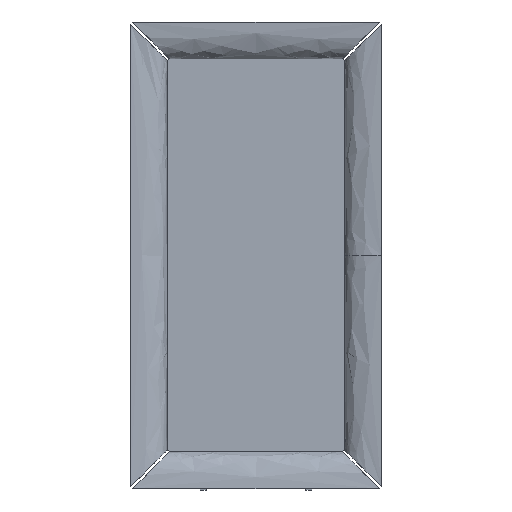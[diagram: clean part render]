
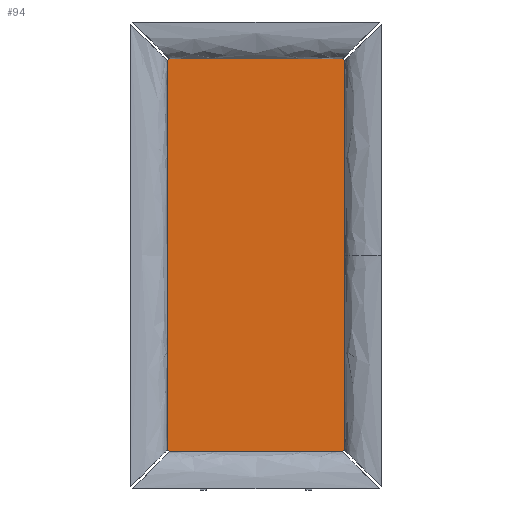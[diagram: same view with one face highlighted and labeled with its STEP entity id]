
A CAD part, top view. The second image highlights one B-rep face of the part: STEP entity #94.
In plain terms, the highlighted planar face has unit normal (0, 0, 1).
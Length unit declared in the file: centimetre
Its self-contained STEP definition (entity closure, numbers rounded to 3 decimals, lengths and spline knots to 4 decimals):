
#94=ADVANCED_FACE($,(#200),#1286,.T.);
#200=FACE_OUTER_BOUND($,#306,.T.);
#306=EDGE_LOOP($,(#424,#425,#426,#427,#428,#429,#430,#431));
#424=ORIENTED_EDGE($,*,*,#894,.T.);
#425=ORIENTED_EDGE($,*,*,#908,.T.);
#426=ORIENTED_EDGE($,*,*,#907,.T.);
#427=ORIENTED_EDGE($,*,*,#906,.T.);
#428=ORIENTED_EDGE($,*,*,#905,.T.);
#429=ORIENTED_EDGE($,*,*,#904,.T.);
#430=ORIENTED_EDGE($,*,*,#903,.T.);
#431=ORIENTED_EDGE($,*,*,#902,.T.);
#894=EDGE_CURVE($,#1133,#1147,#1336,.T.);
#902=EDGE_CURVE($,#1141,#1133,#1344,.T.);
#903=EDGE_CURVE($,#1142,#1141,#1345,.T.);
#904=EDGE_CURVE($,#1143,#1142,#1346,.T.);
#905=EDGE_CURVE($,#1144,#1143,#1347,.T.);
#906=EDGE_CURVE($,#1145,#1144,#1348,.T.);
#907=EDGE_CURVE($,#1146,#1145,#1349,.T.);
#908=EDGE_CURVE($,#1147,#1146,#1350,.T.);
#1133=VERTEX_POINT($,#1827);
#1141=VERTEX_POINT($,#1835);
#1142=VERTEX_POINT($,#1836);
#1143=VERTEX_POINT($,#1837);
#1144=VERTEX_POINT($,#1838);
#1145=VERTEX_POINT($,#1839);
#1146=VERTEX_POINT($,#1840);
#1147=VERTEX_POINT($,#1841);
#1286=PLANE($,#1664);
#1336=B_SPLINE_CURVE_WITH_KNOTS($,1,(#1772,#1773),.UNSPECIFIED.,.F.,.F.,
(2,2),(785.6562,786.8583),.UNSPECIFIED.);
#1344=B_SPLINE_CURVE_WITH_KNOTS($,1,(#1788,#1789),.UNSPECIFIED.,.F.,.F.,
(2,2),(1187.3646,1259.6646),.UNSPECIFIED.);
#1345=B_SPLINE_CURVE_WITH_KNOTS($,1,(#1790,#1791),.UNSPECIFIED.,.F.,.F.,
(2,2),(1186.1625,1187.3646),.UNSPECIFIED.);
#1346=B_SPLINE_CURVE_WITH_KNOTS($,1,(#1792,#1793),.UNSPECIFIED.,.F.,.F.,
(2,2),(1023.8625,1186.1625),.UNSPECIFIED.);
#1347=B_SPLINE_CURVE_WITH_KNOTS($,1,(#1794,#1795),.UNSPECIFIED.,.F.,.F.,
(2,2),(1022.6604,1023.8625),.UNSPECIFIED.);
#1348=B_SPLINE_CURVE_WITH_KNOTS($,1,(#1796,#1797),.UNSPECIFIED.,.F.,.F.,
(2,2),(950.3604,1022.6604),.UNSPECIFIED.);
#1349=B_SPLINE_CURVE_WITH_KNOTS($,1,(#1798,#1799),.UNSPECIFIED.,.F.,.F.,
(2,2),(949.1583,950.3604),.UNSPECIFIED.);
#1350=B_SPLINE_CURVE_WITH_KNOTS($,1,(#1800,#1801),.UNSPECIFIED.,.F.,.F.,
(2,2),(786.8583,949.1583),.UNSPECIFIED.);
#1664=AXIS2_PLACEMENT_3D($,#1818,#1717,$);
#1717=DIRECTION($,(0.,0.,1.));
#1772=CARTESIAN_POINT($,(0.85,164.,3.6));
#1773=CARTESIAN_POINT($,(0.,163.15,3.6));
#1788=CARTESIAN_POINT($,(73.15,164.,3.6));
#1789=CARTESIAN_POINT($,(0.85,164.,3.6));
#1790=CARTESIAN_POINT($,(74.,163.15,3.6));
#1791=CARTESIAN_POINT($,(73.15,164.,3.6));
#1792=CARTESIAN_POINT($,(74.,0.85,3.6));
#1793=CARTESIAN_POINT($,(74.,163.15,3.6));
#1794=CARTESIAN_POINT($,(73.15,0.,3.6));
#1795=CARTESIAN_POINT($,(74.,0.85,3.6));
#1796=CARTESIAN_POINT($,(0.85,0.,3.6));
#1797=CARTESIAN_POINT($,(73.15,0.,3.6));
#1798=CARTESIAN_POINT($,(0.,0.85,3.6));
#1799=CARTESIAN_POINT($,(0.85,0.,3.6));
#1800=CARTESIAN_POINT($,(0.,163.15,3.6));
#1801=CARTESIAN_POINT($,(0.,0.85,3.6));
#1818=CARTESIAN_POINT($,(0.,0.,3.6));
#1827=CARTESIAN_POINT($,(0.85,164.,3.6));
#1835=CARTESIAN_POINT($,(73.15,164.,3.6));
#1836=CARTESIAN_POINT($,(74.,163.15,3.6));
#1837=CARTESIAN_POINT($,(74.,0.85,3.6));
#1838=CARTESIAN_POINT($,(73.15,0.,3.6));
#1839=CARTESIAN_POINT($,(0.85,0.,3.6));
#1840=CARTESIAN_POINT($,(0.,0.85,3.6));
#1841=CARTESIAN_POINT($,(0.,163.15,3.6));
